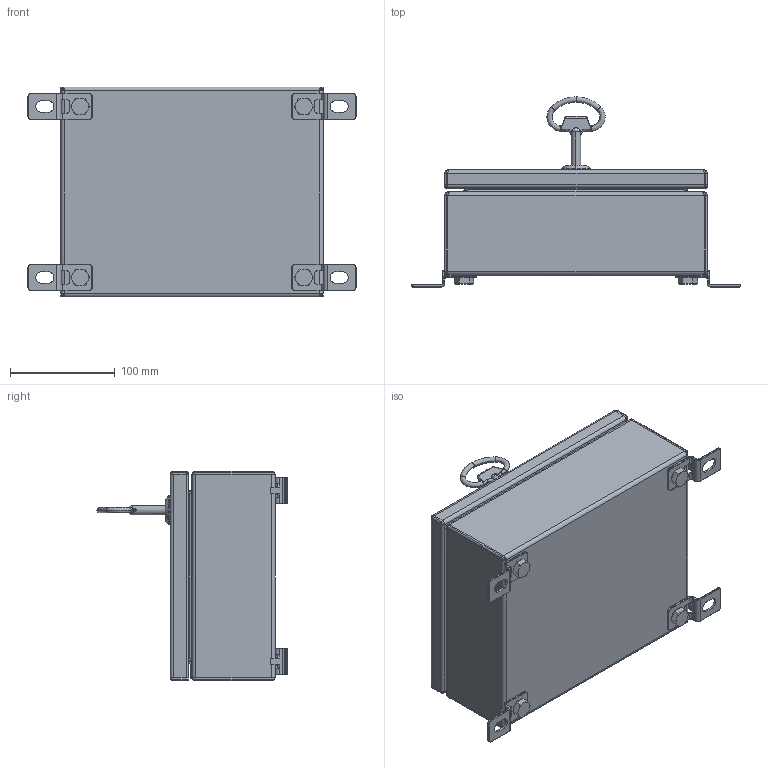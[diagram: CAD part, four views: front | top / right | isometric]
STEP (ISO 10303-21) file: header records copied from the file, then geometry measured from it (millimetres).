
FILE_DESCRIPTION (( 'STEP AP203' ), '1' );
FILE_NAME ('SB-41-02.step', '2017-06-01T15:51:34', ( '' ), ( '' ), 'SwSTEP 2.0', 'SolidWorks 2016', '' );
FILE_SCHEMA (( 'CONFIG_CONTROL_DESIGN' ));
Length unit declared in the file: inch
Products named in the file (30): SB-xxP_SB-30P; SB-KEY-01; SB-GK-01; SB-WIRE-01; W-005; hex nut style 1_am_N-003; SB-HP-01; finished circular plain washer_jis_W-006; spring lock washer_2_jis_W-004; SB-xxFK-01_SB-01FK-01; SB-01LN-01; spring lock washer_2_jis_W-007; SB-PIN-01; Copy of SB-LATCH BODY-01^SB-xxLB; SB-xxLB_SB-01LB-01; SB-xxC_SB-30C-02; e-ring external retaining ring_am_SB-RR-01; SB-xxL_SB-01L-01; finished circular plain washer_jis_W-008; SB-xxB_SB-41B-02; Copy of Part1^SB-xxLB; flat washer narrow_am_W-003; SB-01F-01; spring lock washer_2_jis_W-009; hex washer screw_ai_SI-HWMS 0.25-20x0.5x0.5-C; SB-41-02; hex nut style 1_am_N-002; Copy of Copy of QT-01^SB-xxLB; hex nut style 1_am_N-004; hex cap screw_am_SCREWS-040
Assembly tree (66 placements, depth 4):
  SB-41-02
    SB-xxB_SB-41B-02
    SB-xxC_SB-30C-02
    SB-xxL_SB-01L-01
      SB-xxLB_SB-01LB-01
        Copy of Copy of QT-01^SB-xxLB
        Copy of SB-LATCH BODY-01^SB-xxLB
        hex washer screw_ai_SI-HWMS 0.25-20x0.5x0.5-C
        Copy of Part1^SB-xxLB
      SB-01LN-01
    SB-PIN-01  x2
    e-ring external retaining ring_am_SB-RR-01  x2
    SB-xxFK-01_SB-01FK-01
      SB-01F-01  x4
      hex cap screw_am_SCREWS-040  x4
      hex nut style 1_am_N-003  x4
      W-005  x4
      finished circular plain washer_jis_W-006  x4
      spring lock washer_2_jis_W-007  x4
    SB-GK-01
      SB-KEY-01
      SB-WIRE-01
      flat washer narrow_am_W-003  x4
      spring lock washer_2_jis_W-004  x2
      hex nut style 1_am_N-002  x2
    SB-xxP_SB-30P
    finished circular plain washer_jis_W-008  x4
    spring lock washer_2_jis_W-009  x4
    hex nut style 1_am_N-004  x4
    SB-HP-01  x4
Bounding box: 312.47 x 180.99 x 200 mm (x, y, z)
Volume: 574089.6 mm3; surface area: 599985.6 mm2
Topology: 78 solids, 78 shells, 2140 faces, 4780 edges, 2787 vertices
Faces by surface type: plane 810, cylinder 753, cone 244, torus 183, bspline 128, sphere 22
Entity records: 50549 total; most frequent: CARTESIAN_POINT 15180, DIRECTION 6623, ORIENTED_EDGE 6386, EDGE_CURVE 3193, AXIS2_PLACEMENT_3D 2536, VERTEX_POINT 1863, VECTOR 1551, LINE 1551
